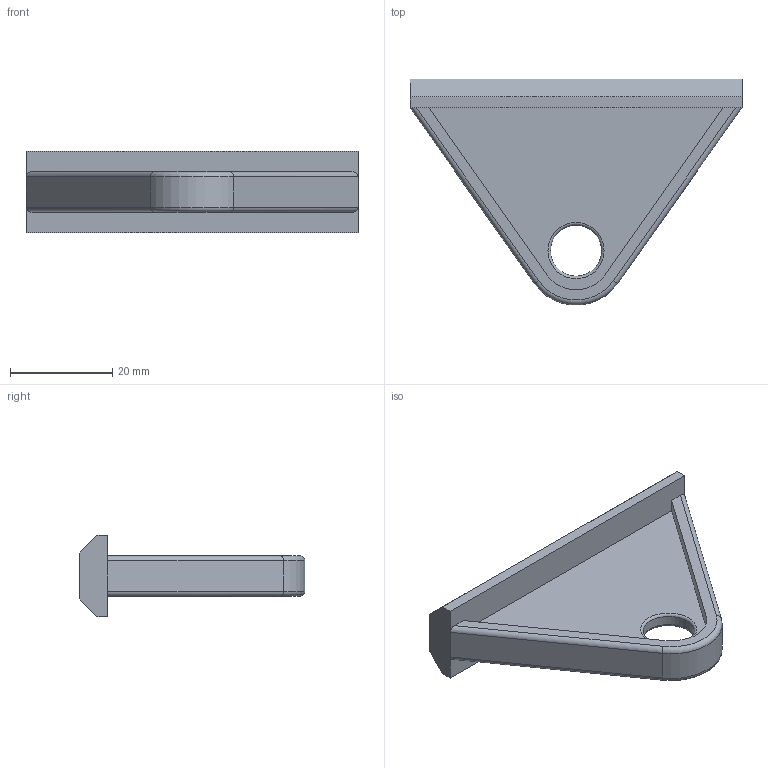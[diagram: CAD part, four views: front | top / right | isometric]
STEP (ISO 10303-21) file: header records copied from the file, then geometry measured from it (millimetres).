
FILE_DESCRIPTION((''),'2;1');
FILE_NAME('E:\catalogue and flyer\Profile catalogue 2015\Accessories ACC info\Accessories ACC step file 31Mar16\ACC-TS93001.stp','2016-04-07T15:17:24',('h029'),(''),'Autodesk Inventor 11','Autodesk Inventor 11','');
FILE_SCHEMA(('AUTOMOTIVE_DESIGN { 1 0 10303 214 1 1 1 1 }'));
Length unit declared in the file: millimetre
Products named in the file (1): ACC-TS93001
Bounding box: 65 x 44.23 x 16 mm (x, y, z)
Volume: 10431.7 mm3; surface area: 6486.2 mm2
Topology: 1 solids, 1 shells, 31 faces, 78 edges, 49 vertices
Faces by surface type: plane 19, cylinder 7, torus 4, bspline 1
Entity records: 936 total; most frequent: CARTESIAN_POINT 171, DIRECTION 156, ORIENTED_EDGE 148, EDGE_CURVE 74, VECTOR 54, LINE 54, AXIS2_PLACEMENT_3D 51, VERTEX_POINT 48
